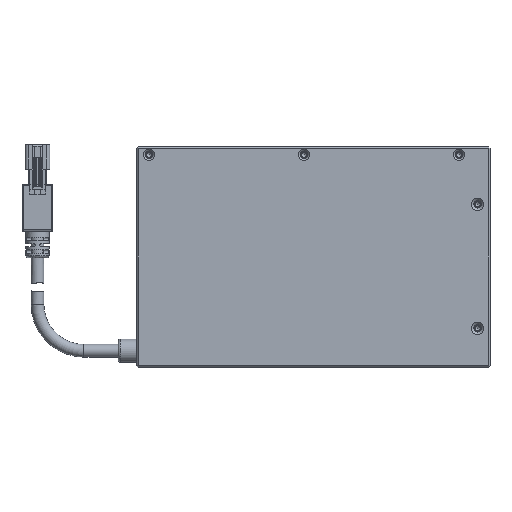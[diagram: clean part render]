
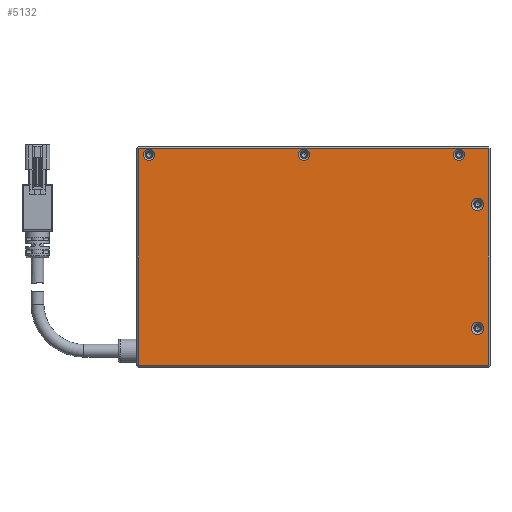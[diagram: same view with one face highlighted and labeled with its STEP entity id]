
A CAD part, top view. The second image highlights one B-rep face of the part: STEP entity #5132.
In plain terms, the highlighted planar face has unit normal (0, 0, 1).
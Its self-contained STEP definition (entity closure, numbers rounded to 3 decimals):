
#106 = ORIENTED_EDGE ( 'NONE', *, *, #8648, .T. ) ;
#211 = ORIENTED_EDGE ( 'NONE', *, *, #16094, .T. ) ;
#326 = FACE_BOUND ( 'NONE', #18155, .T. ) ;
#569 = AXIS2_PLACEMENT_3D ( 'NONE', #3904, #5352, #7506 ) ;
#713 = DIRECTION ( 'NONE',  ( 1., 0., 0. ) ) ;
#745 = CARTESIAN_POINT ( 'NONE',  ( -67.94, -11.233, 73. ) ) ;
#1077 = EDGE_CURVE ( 'NONE', #17721, #18831, #17547, .T. ) ;
#1180 = DIRECTION ( 'NONE',  ( -1., 0., 0. ) ) ;
#1593 = CIRCLE ( 'NONE', #3899, 2. ) ;
#1705 = DIRECTION ( 'NONE',  ( 1., 0., 0. ) ) ;
#1722 = FACE_BOUND ( 'NONE', #14129, .T. ) ;
#1751 = AXIS2_PLACEMENT_3D ( 'NONE', #9150, #6153, #11843 ) ;
#2392 = CARTESIAN_POINT ( 'NONE',  ( -22.44, -10.733, 73. ) ) ;
#2623 = CARTESIAN_POINT ( 'NONE',  ( -67.94, 59.267, 73. ) ) ;
#2665 = EDGE_CURVE ( 'NONE', #14147, #18831, #10591, .T. ) ;
#2738 = CARTESIAN_POINT ( 'NONE',  ( 39.56, 1.267, 73. ) ) ;
#2816 = LINE ( 'NONE', #3305, #18080 ) ;
#2878 = VECTOR ( 'NONE', #713, 1000. ) ;
#2885 = VERTEX_POINT ( 'NONE', #2738 ) ;
#3305 = CARTESIAN_POINT ( 'NONE',  ( 45.56, 59.267, 73. ) ) ;
#3794 = PLANE ( 'NONE',  #10499 ) ;
#3899 = AXIS2_PLACEMENT_3D ( 'NONE', #4919, #6273, #12090 ) ;
#3904 = CARTESIAN_POINT ( 'NONE',  ( 35.56, 57.267, 73. ) ) ;
#4245 = FACE_BOUND ( 'NONE', #13413, .T. ) ;
#4567 = EDGE_CURVE ( 'NONE', #10002, #17721, #2816, .T. ) ;
#4919 = CARTESIAN_POINT ( 'NONE',  ( 41.56, 41.267, 73. ) ) ;
#5132 = ADVANCED_FACE ( 'NONE', ( #7664, #14236, #4245, #17898, #1722, #326 ), #3794, .F. ) ;
#5352 = DIRECTION ( 'NONE',  ( 0., 0., -1. ) ) ;
#5383 = VERTEX_POINT ( 'NONE', #11599 ) ;
#5640 = VERTEX_POINT ( 'NONE', #14404 ) ;
#5776 = EDGE_CURVE ( 'NONE', #2885, #2885, #9460, .T. ) ;
#6153 = DIRECTION ( 'NONE',  ( 0., 0., -1. ) ) ;
#6273 = DIRECTION ( 'NONE',  ( 0., 0., -1. ) ) ;
#6301 = VERTEX_POINT ( 'NONE', #11845 ) ;
#7094 = AXIS2_PLACEMENT_3D ( 'NONE', #14149, #8471, #1180 ) ;
#7506 = DIRECTION ( 'NONE',  ( -1., 0., 0. ) ) ;
#7508 = LINE ( 'NONE', #745, #11329 ) ;
#7664 = FACE_OUTER_BOUND ( 'NONE', #15025, .T. ) ;
#8471 = DIRECTION ( 'NONE',  ( 0., 0., -1. ) ) ;
#8648 = EDGE_CURVE ( 'NONE', #12665, #12665, #9800, .T. ) ;
#8804 = EDGE_CURVE ( 'NONE', #5640, #5640, #1593, .T. ) ;
#9150 = CARTESIAN_POINT ( 'NONE',  ( -14.44, 57.267, 73. ) ) ;
#9282 = EDGE_LOOP ( 'NONE', ( #10605 ) ) ;
#9460 = CIRCLE ( 'NONE', #13064, 2. ) ;
#9522 = EDGE_CURVE ( 'NONE', #10002, #14147, #7508, .T. ) ;
#9800 = CIRCLE ( 'NONE', #569, 1.85 ) ;
#10002 = VERTEX_POINT ( 'NONE', #2623 ) ;
#10303 = CARTESIAN_POINT ( 'NONE',  ( -67.94, -10.733, 73. ) ) ;
#10454 = EDGE_CURVE ( 'NONE', #5383, #5383, #16087, .T. ) ;
#10499 = AXIS2_PLACEMENT_3D ( 'NONE', #15560, #15625, #14131 ) ;
#10591 = LINE ( 'NONE', #2392, #2878 ) ;
#10605 = ORIENTED_EDGE ( 'NONE', *, *, #10454, .T. ) ;
#11061 = ORIENTED_EDGE ( 'NONE', *, *, #1077, .F. ) ;
#11329 = VECTOR ( 'NONE', #18269, 1000. ) ;
#11536 = CARTESIAN_POINT ( 'NONE',  ( 33.71, 57.267, 73. ) ) ;
#11599 = CARTESIAN_POINT ( 'NONE',  ( -66.29, 57.267, 73. ) ) ;
#11613 = CARTESIAN_POINT ( 'NONE',  ( 45.06, 59.767, 73. ) ) ;
#11843 = DIRECTION ( 'NONE',  ( -1., 0., 0. ) ) ;
#11845 = CARTESIAN_POINT ( 'NONE',  ( -16.29, 57.267, 73. ) ) ;
#12090 = DIRECTION ( 'NONE',  ( -1., 0., 0. ) ) ;
#12194 = CARTESIAN_POINT ( 'NONE',  ( 45.06, 59.267, 73. ) ) ;
#12342 = ORIENTED_EDGE ( 'NONE', *, *, #2665, .T. ) ;
#12665 = VERTEX_POINT ( 'NONE', #11536 ) ;
#12965 = CIRCLE ( 'NONE', #1751, 1.85 ) ;
#12969 = CARTESIAN_POINT ( 'NONE',  ( 45.06, -10.733, 73. ) ) ;
#13064 = AXIS2_PLACEMENT_3D ( 'NONE', #14047, #15472, #14110 ) ;
#13413 = EDGE_LOOP ( 'NONE', ( #211 ) ) ;
#13574 = ORIENTED_EDGE ( 'NONE', *, *, #8804, .T. ) ;
#13612 = VECTOR ( 'NONE', #16166, 1000. ) ;
#14047 = CARTESIAN_POINT ( 'NONE',  ( 41.56, 1.267, 73. ) ) ;
#14110 = DIRECTION ( 'NONE',  ( -1., 0., 0. ) ) ;
#14129 = EDGE_LOOP ( 'NONE', ( #13574 ) ) ;
#14131 = DIRECTION ( 'NONE',  ( 0., -1., 0. ) ) ;
#14147 = VERTEX_POINT ( 'NONE', #10303 ) ;
#14149 = CARTESIAN_POINT ( 'NONE',  ( -64.44, 57.267, 73. ) ) ;
#14236 = FACE_BOUND ( 'NONE', #16273, .T. ) ;
#14404 = CARTESIAN_POINT ( 'NONE',  ( 39.56, 41.267, 73. ) ) ;
#15025 = EDGE_LOOP ( 'NONE', ( #15645, #12342, #11061, #18618 ) ) ;
#15472 = DIRECTION ( 'NONE',  ( 0., 0., -1. ) ) ;
#15560 = CARTESIAN_POINT ( 'NONE',  ( -22.44, -11.233, 73. ) ) ;
#15625 = DIRECTION ( 'NONE',  ( 0., 0., -1. ) ) ;
#15645 = ORIENTED_EDGE ( 'NONE', *, *, #9522, .T. ) ;
#16087 = CIRCLE ( 'NONE', #7094, 1.85 ) ;
#16094 = EDGE_CURVE ( 'NONE', #6301, #6301, #12965, .T. ) ;
#16166 = DIRECTION ( 'NONE',  ( 0., -1., 0. ) ) ;
#16273 = EDGE_LOOP ( 'NONE', ( #106 ) ) ;
#17547 = LINE ( 'NONE', #11613, #13612 ) ;
#17721 = VERTEX_POINT ( 'NONE', #12194 ) ;
#17806 = ORIENTED_EDGE ( 'NONE', *, *, #5776, .T. ) ;
#17898 = FACE_BOUND ( 'NONE', #9282, .T. ) ;
#18080 = VECTOR ( 'NONE', #1705, 1000. ) ;
#18155 = EDGE_LOOP ( 'NONE', ( #17806 ) ) ;
#18269 = DIRECTION ( 'NONE',  ( 0., -1., 0. ) ) ;
#18618 = ORIENTED_EDGE ( 'NONE', *, *, #4567, .F. ) ;
#18831 = VERTEX_POINT ( 'NONE', #12969 ) ;
